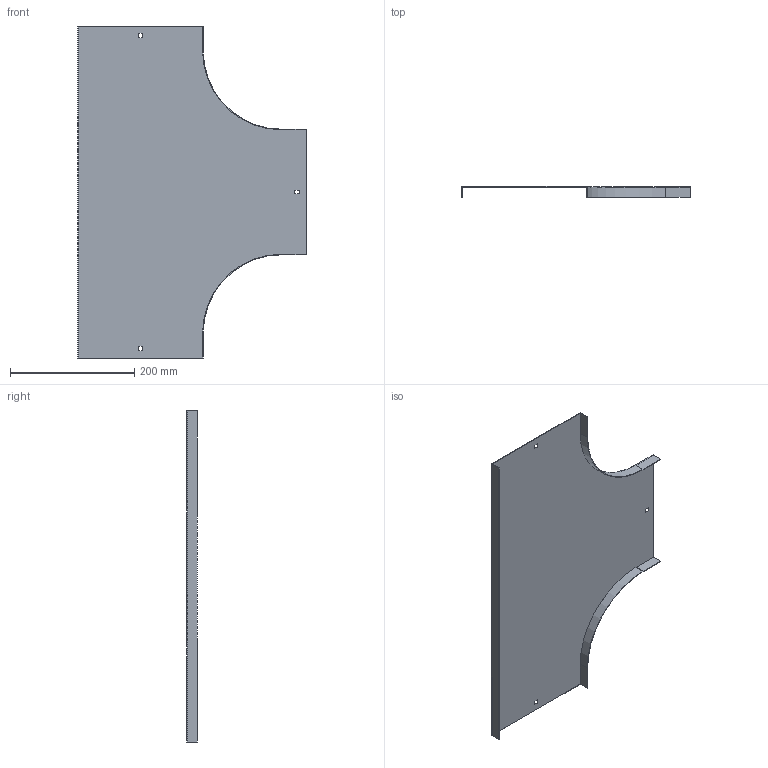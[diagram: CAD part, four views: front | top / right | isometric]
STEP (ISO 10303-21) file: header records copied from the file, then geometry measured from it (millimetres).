
FILE_DESCRIPTION (( 'STEP AP214' ), '1' );
FILE_NAME ('OT_200.step', '2025-07-16T09:18:08', ( '' ), ( '' ), 'SwSTEP 2.0', 'SolidWorks 2023', '' );
FILE_SCHEMA (( 'AUTOMOTIVE_DESIGN' ));
Length unit declared in the file: millimetre
Products named in the file (1): OT_200
Bounding box: 368 x 17 x 534 mm (x, y, z)
Volume: 165550.6 mm3; surface area: 332971.1 mm2
Topology: 1 solids, 1 shells, 34 faces, 96 edges, 64 vertices
Faces by surface type: plane 30, cylinder 4
Entity records: 1123 total; most frequent: CARTESIAN_POINT 195, ORIENTED_EDGE 192, DIRECTION 174, EDGE_CURVE 96, VECTOR 88, LINE 88, VERTEX_POINT 64, AXIS2_PLACEMENT_3D 43
